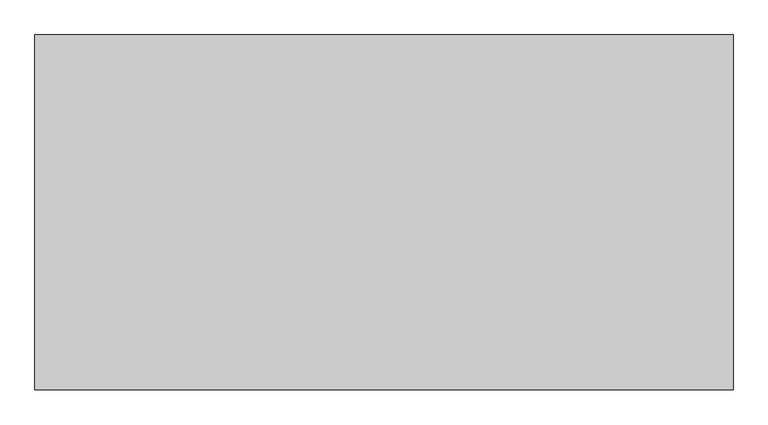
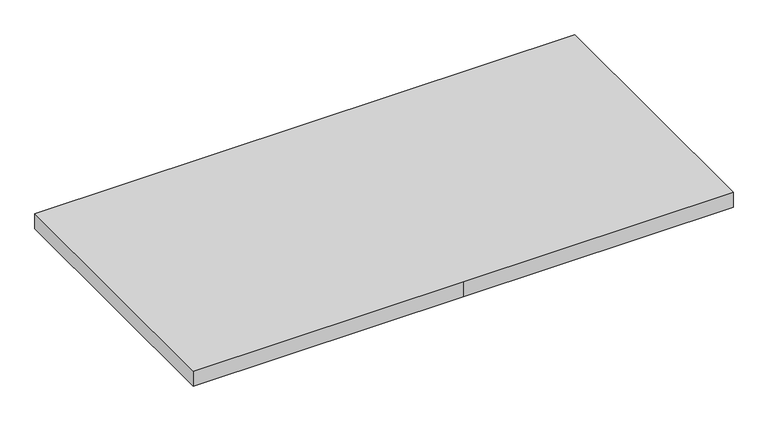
"""IFC4 building model written with IfcOpenShell, lengths in millimetres: valve geometry, Pipelife - Stormbox II - Dno skrzynki : Dno skrzynki."""

from ifc_helpers import new_model, si_unit, origin, origin_with_axes, place, context, project, spatial, polyline, outline, extrude, source, transform, mapped, element, save


def valve_0aeaebd4(model_context):
    return source(origin(), model_context, "Body", "SweptSolid", [
        extrude(outline(polyline([(611.0, -310.5), (0.0, -310.5), (-611.0, -310.5), (-611.0, 310.5), (0.0, 310.5), (611.0, 310.5), (611.0, -310.5)])), origin_with_axes(), (0.0, 0.0, 1.0), 36.0),
    ])


if __name__ == "__main__":
    model = new_model("IFC4")
    model_context = context("Model", 3, world=origin())
    ifc_project = project(units=[si_unit("LENGTHUNIT", "METRE", prefix="MILLI")], contexts=[model_context])
    site = spatial("IfcSite", under=ifc_project)
    building = spatial("IfcBuilding", under=site)
    placement = place(None, origin())
    valve_shape = valve_0aeaebd4(model_context)
    element("IfcValve", 1, ObjectType="Pipelife - Stormbox II - Dno skrzynki : Dno skrzynki", at=placement, inside=building, context=model_context, shape_type="MappedRepresentation", body=[
        mapped(valve_shape, transform((0.0, 0.0, 0.0), x_axis=(1.0, 0.0, 0.0), y_axis=(0.0, 1.0, 0.0), z_axis=(0.0, 0.0, 1.0))),
    ])
    save(model, "model.ifc")
